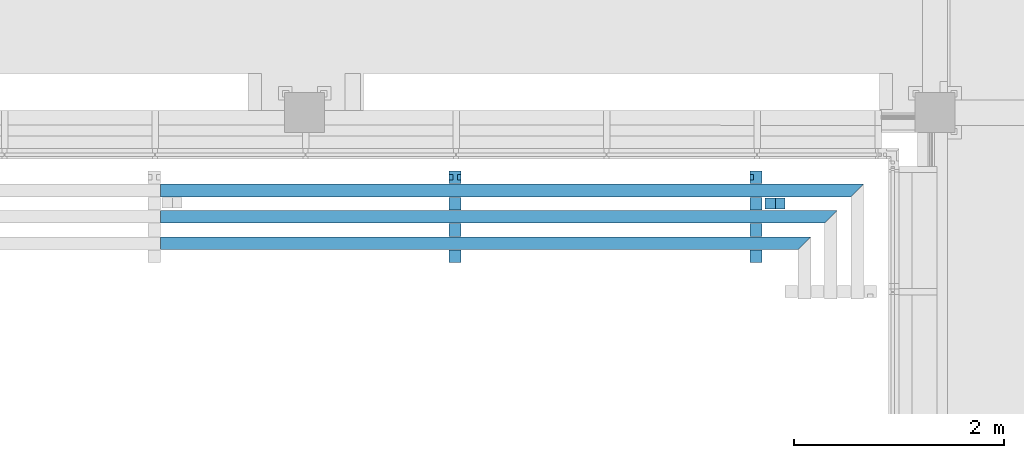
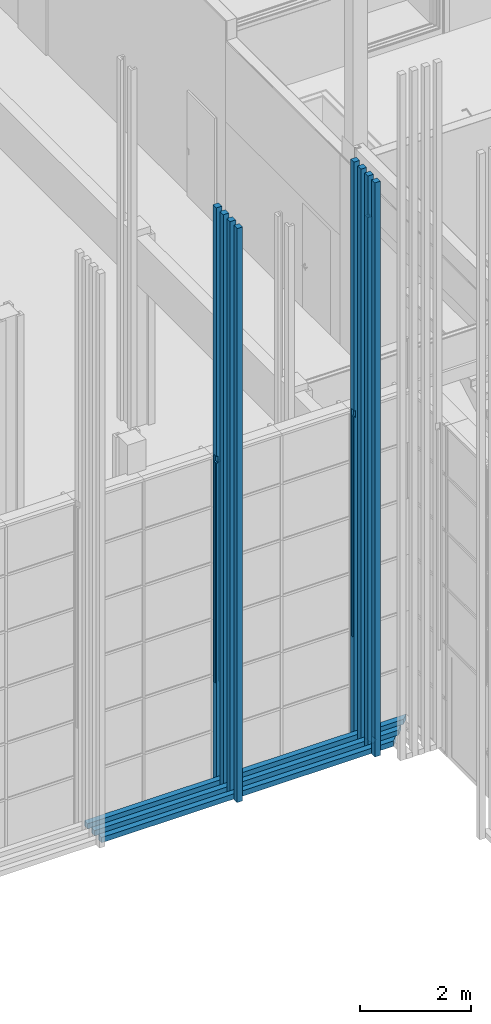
# One storey, part 138 of 260: 7 discrete accessories.
"""IFC2X3 building model written with IfcOpenShell, lengths in millimetres."""

from ifc_helpers import new_model, entity, si_unit, converted_unit, derived_unit, money_unit, direction, frame, origin_with_axes, place, context, subcontext, project, spatial, open_shell, faceted_brep, surface_model, material, material_list, type_object, element, save


model = new_model("IFC2X3")

# Units and contexts
model_context = context("Model", 3, precision=0.01, world=origin_with_axes(), true_north=direction((0.0, 1.0)))
body_context = subcontext(model_context, "Body", "Model", "MODEL_VIEW")
ifc_project = project(units=[si_unit("LENGTHUNIT", "METRE", prefix="MILLI"), si_unit("AREAUNIT", "SQUARE_METRE"), si_unit("VOLUMEUNIT", "CUBIC_METRE"), converted_unit("PLANEANGLEUNIT", "DEGREE", entity("IfcPlaneAngleMeasure", 0.0174532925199), si_unit("PLANEANGLEUNIT", "RADIAN"), dimensions=[0, 0, 0, 0, 0, 0, 0]), money_unit("EUR"), converted_unit("TIMEUNIT", "Year", entity("IfcTimeMeasure", 31556926.0), si_unit("TIMEUNIT", "SECOND"), dimensions=[0, 0, 1, 0, 0, 0, 0]), si_unit("MASSUNIT", "GRAM", prefix="KILO"), si_unit("THERMODYNAMICTEMPERATUREUNIT", "DEGREE_CELSIUS"), si_unit("LUMINOUSINTENSITYUNIT", "LUMEN"), si_unit("ENERGYUNIT", "JOULE", prefix="MEGA"), derived_unit("THERMALCONDUCTANCEUNIT", [(si_unit("POWERUNIT", "WATT"), 1), (si_unit("LENGTHUNIT", "METRE"), -1), (si_unit("THERMODYNAMICTEMPERATUREUNIT", "KELVIN"), -1)]), derived_unit("SPECIFICHEATCAPACITYUNIT", [(si_unit("ENERGYUNIT", "JOULE"), 1), (si_unit("MASSUNIT", "GRAM", prefix="KILO"), -1), (si_unit("THERMODYNAMICTEMPERATUREUNIT", "KELVIN"), -1)]), derived_unit("MASSDENSITYUNIT", [(si_unit("MASSUNIT", "GRAM", prefix="KILO"), 1), (si_unit("VOLUMEUNIT", "CUBIC_METRE"), -1)])], contexts=[model_context])

# Site, building, storey
site_placement = place(None, origin_with_axes())
site = spatial("IfcSite", under=ifc_project, at=site_placement, Name="Kolde pst 67a", CompositionType="ELEMENT")
building_placement = place(site_placement, origin_with_axes())
building = spatial("IfcBuilding", under=site, at=building_placement, Name="Riigigümnaasium", CompositionType="ELEMENT")
storey_placement = place(building_placement, origin_with_axes())
storey = spatial("IfcBuildingStorey", under=building, at=storey_placement, Name="1. korrus", CompositionType="ELEMENT", Elevation=0.0)

# Discrete accessories
ifc_material_1 = material(Name="_VÄLISVIIMISTLUS - sõrmjätkatud puitprussid 120x115mm, liitekohad vähemärgatavad, Platowood sõrmjätkatud kuusk või samaväärne; eeltöödeldud tuletõkkevõõbaga, tuletundlikkus B-s1, d0, Woodsafe Exterior WFX™ või samaväärne; kinnitused vastavalt EK osale")
ifc_material_list_1 = material_list([ifc_material_1, ifc_material_1, ifc_material_1, ifc_material_1])
discrete_accessory_type_1 = type_object("IfcDiscreteAccessoryType", Name="120 4-ne vertikaalne 870 x 115")
discrete_accessory_1_placement = place(storey_placement, frame((43657.5025222, 23687.999745, 280.0), z_axis=(0.0, 0.0, 1.0), x_axis=(-3.13999128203e-06, 0.999999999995, 0.0)))
element("IfcDiscreteAccessory", 1, at=discrete_accessory_1_placement, inside=storey, type_object=discrete_accessory_type_1, material=ifc_material_list_1, Name="Päikesevarjestus", context=body_context, shape_type="Brep", body=[
    faceted_brep([(-47.9999999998, 45.0001098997, 6990.0), (-48.0001098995, 10.0001098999, 6990.0), (-47.8300549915, 10.0031465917, 6990.0), (-47.8320637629, 45.0, 6990.0), (-47.9999999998, 45.0001098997, 2150.0), (-48.0001098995, 10.0001098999, 2150.0), (-98.0001098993, 10.0002668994, 6990.0), (-133.0, 9.99825795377, 6990.0), (-133.0, 9.99825795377, 7140.0), (-47.8300549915, 10.0031465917, 7140.0), (-47.8320637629, 45.0, 7140.0), (-133.0, 45.0, 7140.0), (-133.0, 45.0, 12600.0), (-13.0, 45.0, 12600.0), (-13.0, 45.0, 0.0), (-133.0, 45.0, 0.0), (-133.0, 45.0, 6990.0), (-97.9999999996, 45.0002668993, 6990.0), (-97.9999999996, 45.0002668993, 2150.0), (-98.0001098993, 10.0002668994, 2150.0), (-133.0, -35.0048945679, 7140.0), (-133.0, -70.0, 7140.0), (-133.0, -70.0, 12600.0), (-133.0, -70.0, 0.0), (-133.0, -70.0, 6990.0), (-133.0, -35.0048945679, 6990.0), (-13.0, -70.0, 12600.0), (-13.0, -70.0, 0.0), (-47.8274718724, -35.0000057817, 7140.0), (-47.8254629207, -70.0, 7140.0), (-47.8254629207, -70.0, 6990.0), (-48.0003610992, -70.0000156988, 6990.0), (-48.0003610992, -70.0000156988, 2150.0), (-98.000361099, -69.9998586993, 2150.0), (-98.000361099, -69.9998586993, 6990.0), (-98.0002511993, -34.9998586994, 6990.0), (-48.0002511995, -35.000015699, 6990.0), (-47.8274718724, -35.0000057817, 6990.0), (-48.0002511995, -35.000015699, 2150.0), (-98.0002511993, -34.9998586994, 2150.0)], [[[0, 1, 2, 3]], [[1, 0, 4, 5]], [[1, 6, 7, 8, 9, 2]], [[2, 9, 10, 3]], [[4, 0, 3, 10, 11, 12, 13, 14, 15, 16, 17, 18]], [[4, 18, 19, 5]], [[6, 1, 5, 19]], [[6, 17, 16, 7]], [[20, 21, 22, 12, 11, 8, 7, 16, 15, 23, 24, 25]], [[10, 9, 8, 11]], [[26, 13, 12, 22]], [[14, 13, 26, 27]], [[15, 14, 27, 23]], [[17, 6, 19, 18]], [[20, 28, 29, 21]], [[30, 31, 32, 33, 34, 24, 23, 27, 26, 22, 21, 29]], [[35, 25, 24, 34]], [[28, 20, 25, 35, 36, 37]], [[28, 37, 30, 29]], [[31, 30, 37, 36]], [[31, 36, 38, 32]], [[32, 38, 39, 33]], [[34, 33, 39, 35]], [[35, 39, 38, 36]]]),
    faceted_brep([(-383.0, -70.0, 0.0), (-263.0, -70.0, 0.0), (-263.0, -70.0, 12600.0), (-383.0, -70.0, 12600.0), (-383.0, 45.0, 0.0), (-263.0, 45.0, 0.0), (-263.0, 45.0, 12600.0), (-383.0, 45.0, 12600.0)], [[[0, 1, 2, 3]], [[0, 4, 5, 1]], [[1, 5, 6, 2]], [[3, 2, 6, 7]], [[4, 0, 3, 7]], [[5, 4, 7, 6]]]),
    faceted_brep([(-633.0, -70.0, 0.0), (-513.0, -70.0, 0.0), (-513.0, -70.0, 12600.0), (-633.0, -70.0, 12600.0), (-633.0, 45.0, 0.0), (-513.0, 45.0, 0.0), (-513.0, 45.0, 12600.0), (-633.0, 45.0, 12600.0)], [[[0, 1, 2, 3]], [[0, 4, 5, 1]], [[1, 5, 6, 2]], [[3, 2, 6, 7]], [[4, 0, 3, 7]], [[5, 4, 7, 6]]]),
    faceted_brep([(-883.0, -70.0, 0.0), (-763.0, -70.0, 0.0), (-763.0, -70.0, 12600.0), (-883.0, -70.0, 12600.0), (-883.0, 45.0, 0.0), (-763.0, 45.0, 0.0), (-763.0, 45.0, 12600.0), (-883.0, 45.0, 12600.0)], [[[0, 1, 2, 3]], [[0, 4, 5, 1]], [[1, 5, 6, 2]], [[3, 2, 6, 7]], [[4, 0, 3, 7]], [[5, 4, 7, 6]]]),
])
discrete_accessory_2_placement = place(storey_placement, frame((46517.5025222, 23687.999745, 280.0), z_axis=(0.0, 0.0, 1.0), x_axis=(-3.13999128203e-06, 0.999999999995, 0.0)))
element("IfcDiscreteAccessory", 2, at=discrete_accessory_2_placement, inside=storey, type_object=discrete_accessory_type_1, material=ifc_material_list_1, Name="Päikesevarjestus", context=body_context, shape_type="Brep", body=[
    faceted_brep([(-47.9999999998, 45.0001098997, 6990.0), (-48.0001098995, 10.0001098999, 6990.0), (-47.656914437, 10.001317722, 6990.0), (-47.6589233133, 45.0, 6990.0), (-47.9999999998, 45.0001098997, 2150.0), (-48.0001098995, 10.0001098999, 2150.0), (-98.0001098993, 10.0002668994, 6990.0), (-133.0, 9.99641914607, 6990.0), (-133.0, 9.99641914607, 7140.0), (-47.656914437, 10.001317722, 7140.0), (-47.6589233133, 45.0, 7140.0), (-133.0, 45.0, 7140.0), (-133.0, 45.0, 12600.0), (-13.0, 45.0, 12600.0), (-13.0, 45.0, 0.0), (-133.0, 45.0, 0.0), (-133.0, 45.0, 6990.0), (-97.9999999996, 45.0002668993, 6990.0), (-97.9999999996, 45.0002668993, 2150.0), (-98.0001098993, 10.0002668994, 2150.0), (-133.0, -70.0, 0.0), (-133.0, -70.0, 12600.0), (-13.0, -70.0, 12600.0), (-13.0, -70.0, 0.0)], [[[0, 1, 2, 3]], [[1, 0, 4, 5]], [[1, 6, 7, 8, 9, 2]], [[3, 2, 9, 10]], [[4, 0, 3, 10, 11, 12, 13, 14, 15, 16, 17, 18]], [[4, 18, 19, 5]], [[6, 1, 5, 19]], [[6, 17, 16, 7]], [[12, 11, 8, 7, 16, 15, 20, 21]], [[11, 10, 9, 8]], [[21, 22, 13, 12]], [[23, 14, 13, 22]], [[20, 15, 14, 23]], [[17, 6, 19, 18]], [[20, 23, 22, 21]]]),
    faceted_brep([(-383.0, -70.0, 0.0), (-263.0, -70.0, 0.0), (-263.0, -70.0, 12600.0), (-383.0, -70.0, 12600.0), (-383.0, 45.0, 0.0), (-263.0, 45.0, 0.0), (-263.0, 45.0, 12600.0), (-383.0, 45.0, 12600.0)], [[[0, 1, 2, 3]], [[0, 4, 5, 1]], [[1, 5, 6, 2]], [[3, 2, 6, 7]], [[4, 0, 3, 7]], [[5, 4, 7, 6]]]),
    faceted_brep([(-633.0, -70.0, 0.0), (-513.0, -70.0, 0.0), (-513.0, -70.0, 12600.0), (-633.0, -70.0, 12600.0), (-633.0, 45.0, 0.0), (-513.0, 45.0, 0.0), (-513.0, 45.0, 12600.0), (-633.0, 45.0, 12600.0)], [[[0, 1, 2, 3]], [[0, 4, 5, 1]], [[1, 5, 6, 2]], [[3, 2, 6, 7]], [[4, 0, 3, 7]], [[5, 4, 7, 6]]]),
    faceted_brep([(-883.0, -70.0, 0.0), (-763.0, -70.0, 0.0), (-763.0, -70.0, 12600.0), (-883.0, -70.0, 12600.0), (-883.0, 45.0, 0.0), (-763.0, 45.0, 0.0), (-763.0, 45.0, 12600.0), (-883.0, 45.0, 12600.0)], [[[0, 1, 2, 3]], [[0, 4, 5, 1]], [[1, 5, 6, 2]], [[3, 2, 6, 7]], [[4, 0, 3, 7]], [[5, 4, 7, 6]]]),
])
ifc_material_list_2 = material_list([ifc_material_1, ifc_material_1, ifc_material_1])
discrete_accessory_type_2 = type_object("IfcDiscreteAccessoryType", Name="120 1+paiksekaitse 3 tk  620 x 115")
discrete_accessory_3_placement = place(storey_placement, frame((40750.002563, 23674.9995959, 352.5), z_axis=(0.0, 0.0, 1.0), x_axis=(0.0, -1.0, 0.0)))
element("IfcDiscreteAccessory", 3, at=discrete_accessory_3_placement, inside=storey, type_object=discrete_accessory_type_2, material=ifc_material_list_2, Name="Päikesevarjestus", context=body_context, shape_type="Brep", body=[
    faceted_brep([(625.0, 6299.95300261, -70.0), (625.0, 119.999999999, -70.0), (625.0, 119.999999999, 45.0), (625.0, 6299.95300261, 45.0), (745.0, 6179.96059017, -70.0), (745.0, 119.999999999, -70.0), (745.0, 119.999999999, 45.0), (745.0, 6179.96059017, 45.0)], [[[0, 1, 2, 3]], [[4, 5, 1, 0]], [[5, 6, 2, 1]], [[3, 2, 6, 7]], [[4, 0, 3, 7]], [[7, 6, 5, 4]]]),
    faceted_brep([(375.0, 6549.9371952, -70.0), (375.0, 119.999999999, -70.0), (375.0, 119.999999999, 45.0), (375.0, 6549.9371952, 45.0), (495.0, 6429.94478276, -70.0), (495.0, 119.999999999, -70.0), (495.0, 119.999999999, 45.0), (495.0, 6429.94478276, 45.0)], [[[0, 1, 2, 3]], [[4, 5, 1, 0]], [[5, 6, 2, 1]], [[3, 2, 6, 7]], [[4, 0, 3, 7]], [[7, 6, 5, 4]]]),
    faceted_brep([(125.0, 6799.9213878, -70.0), (125.0, 119.999999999, -70.0), (125.0, 119.999999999, 45.0), (125.0, 6799.9213878, 45.0), (245.0, 6679.92897535, -70.0), (245.0, 119.999999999, -70.0), (245.0, 119.999999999, 45.0), (245.0, 6679.92897535, 45.0)], [[[0, 1, 2, 3]], [[4, 5, 1, 0]], [[5, 6, 2, 1]], [[3, 2, 6, 7]], [[4, 0, 3, 7]], [[7, 6, 5, 4]]]),
])
discrete_accessory_type_3 = type_object("IfcDiscreteAccessoryType", Name="Downspout Complex 25")
discrete_accessory_4_placement = place(storey_placement, frame((46662.5228299, 23366.4790362, 169.995312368), z_axis=(0.0, 0.0, 1.0), x_axis=(0.0, 1.0, 0.0)))
element("IfcDiscreteAccessory", 4, at=discrete_accessory_4_placement, inside=storey, type_object=discrete_accessory_type_3, Name="Vihmavee toru LORO-X Quadratic 100x100 mm, kuumtsingitud teras, või analoogne", context=body_context, shape_type="SurfaceModel", body=[
    surface_model("IfcShellBasedSurfaceModel", [(-50.0, 50.0, 311.421356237), (-50.0, 50.0, 120.710678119), (-50.0, -70.7106781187, 0.0), (-50.0, -141.421356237, 70.7106781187), (-50.0, -50.0, 162.132034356), (-50.0, -50.0, 311.421356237), (50.0, 50.0, 311.421356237), (50.0, 50.0, 120.710678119), (50.0, -70.7106781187, 0.0), (50.0, -141.421356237, 70.7106781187), (50.0, -50.0, 162.132034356), (50.0, -50.0, 311.421356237)], [open_shell([[[0, 1, 2, 3, 4, 5]], [[6, 7, 1, 0]], [[7, 8, 2, 1]], [[4, 3, 9, 10]], [[5, 4, 10, 11]], [[11, 10, 9, 8, 7, 6]]])]),
    surface_model("IfcShellBasedSurfaceModel", [(50.0, -50.0, 11584.8546876), (50.0, -50.0, 311.421356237), (50.0, 50.0, 311.421356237), (50.0, 50.0, 11584.8546876), (-50.0, -50.0, 11584.8546876), (-50.0, -50.0, 311.421356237), (-50.0, 50.0, 311.421356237), (-50.0, 50.0, 11584.8546876)], [open_shell([[[0, 1, 2, 3]], [[4, 5, 1, 0]], [[3, 2, 6, 7]], [[7, 6, 5, 4]]])]),
])
ifc_material_2 = material(Name="_METALL - teras")
discrete_accessory_type_4 = type_object("IfcDiscreteAccessoryType", Name="_METALL - teras 50 x 35")
discrete_accessory_5_placement = place(storey_placement, frame((46490.002563, 23614.9996037, 2430.0), z_axis=(0.0, 0.0, 1.0), x_axis=(0.0, -1.0, 0.0)))
element("IfcDiscreteAccessory", 5, at=discrete_accessory_5_placement, inside=storey, type_object=discrete_accessory_type_4, material=ifc_material_2, Name="Varjestuskardina külgsiin RENSON või analoog", context=body_context, shape_type="Brep", body=[
    faceted_brep([(25.0, 17.5, 4840.0), (25.0, 17.5, 0.0), (-25.0, 17.5, 0.0), (-25.0, 17.5, 4840.0), (25.0, -17.5, 4840.0), (25.0, -17.5, 0.0), (-25.0, -17.5, 0.0), (-25.0, -17.5, 4840.0)], [[[0, 1, 2, 3]], [[4, 5, 1, 0]], [[2, 1, 5, 6]], [[3, 2, 6, 7]], [[4, 0, 3, 7]], [[7, 6, 5, 4]]]),
])
discrete_accessory_6_placement = place(storey_placement, frame((43710.0026886, 23614.9996037, 2430.0), z_axis=(0.0, 0.0, 1.0), x_axis=(0.0, 1.0, 0.0)))
element("IfcDiscreteAccessory", 6, at=discrete_accessory_6_placement, inside=storey, type_object=discrete_accessory_type_4, material=ifc_material_2, Name="Varjestuskardina külgsiin RENSON või analoog", context=body_context, shape_type="Brep", body=[
    faceted_brep([(-25.0, -17.5, 4840.0), (-25.0, -17.5, 0.0), (25.0, -17.5, 0.0), (25.0, -17.5, 4840.0), (-25.0, 17.5, 4840.0), (-25.0, 17.5, 0.0), (25.0, 17.5, 0.0), (25.0, 17.5, 4840.0)], [[[0, 1, 2, 3]], [[4, 5, 1, 0]], [[2, 1, 5, 6]], [[3, 2, 6, 7]], [[4, 0, 3, 7]], [[7, 6, 5, 4]]]),
])
discrete_accessory_7_placement = place(storey_placement, frame((43630.002563, 23614.9996037, 2430.0), z_axis=(0.0, 0.0, 1.0), x_axis=(0.0, -1.0, 0.0)))
element("IfcDiscreteAccessory", 7, at=discrete_accessory_7_placement, inside=storey, type_object=discrete_accessory_type_4, material=ifc_material_2, Name="Varjestuskardina külgsiin RENSON või analoog", context=body_context, shape_type="Brep", body=[
    faceted_brep([(25.0, 17.5, 4840.0), (25.0, 17.5, 0.0), (-25.0, 17.5, 0.0), (-25.0, 17.5, 4840.0), (25.0, -17.5, 4840.0), (25.0, -17.5, 0.0), (-25.0, -17.5, 0.0), (-25.0, -17.5, 4840.0)], [[[0, 1, 2, 3]], [[4, 5, 1, 0]], [[2, 1, 5, 6]], [[3, 2, 6, 7]], [[4, 0, 3, 7]], [[7, 6, 5, 4]]]),
])

save(model, "model.ifc")
